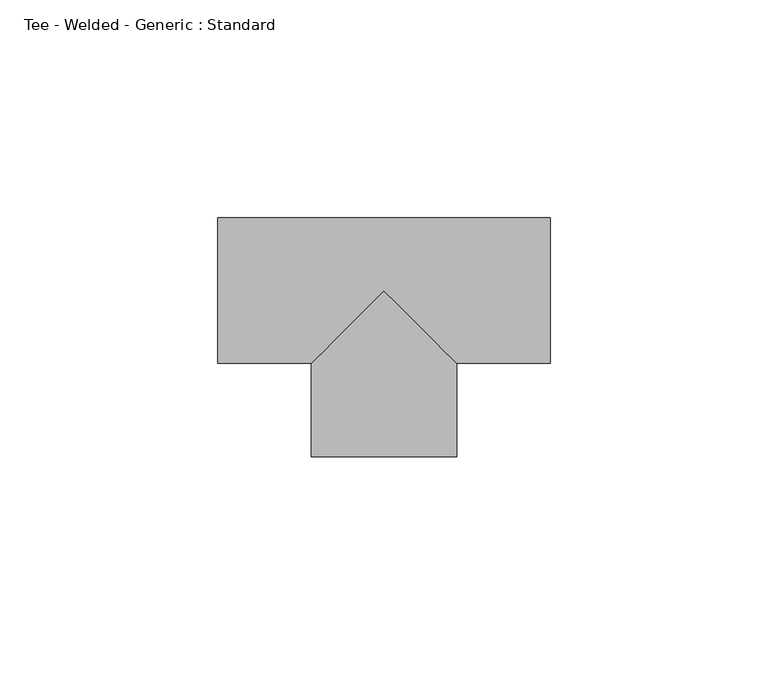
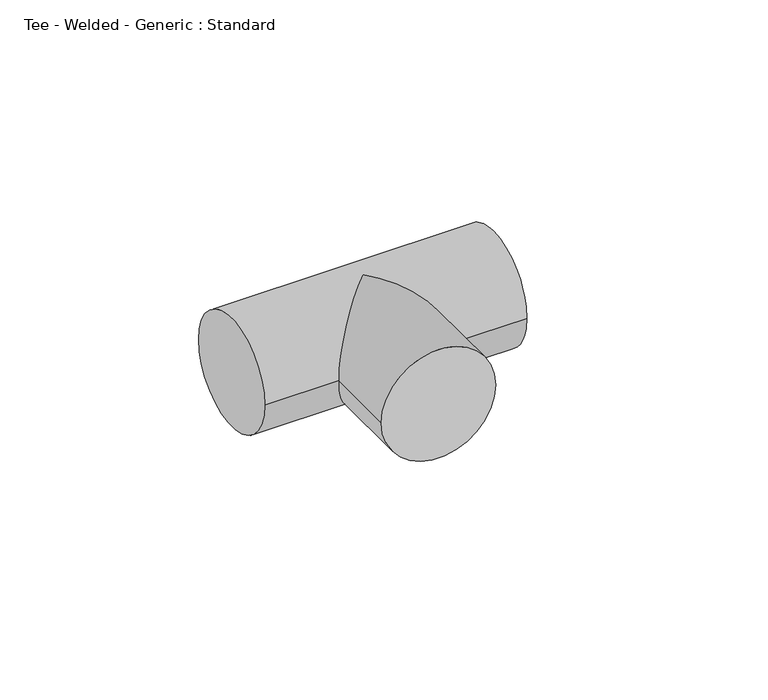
"""IFC4 building model written with IfcOpenShell, lengths in millimetres: pipe fitting geometry, Tee - Welded - Generic : Standard."""

import ifcopenshell
import ifcopenshell.guid

model = None  # the IFC model being written
_history = None  # IfcOwnerHistory: only IFC2X3 demands one
_inside = {}  # id of a spatial element -> (the spatial element, [elements in it])
_under = {}  # id of a project, library or spatial element -> (it, [spatial elements below it])
_declared = {}  # id of a project -> (the project, [libraries it declares])
_typed = {}  # id of a type object -> (the type object, [elements of that type])
_made_of = {}  # id of a material, layer set ... -> (it, [elements and type objects made of it])


def new_model(schema):
    """Start an empty IFC model of exactly this schema.

    Asked for "IFC4X3", IfcOpenShell would pick the latest addendum, in which some entities
    have other attributes; the version numbers below select the first issue.
    IFC2X3 requires an IfcOwnerHistory on every rooted entity: one is made here for all.
    """
    global model, _history
    if schema == "IFC4X3":
        model = ifcopenshell.file(schema_version=(4, 3, 0, 0))
    else:
        model = ifcopenshell.file(schema=schema)
    _inside.clear()
    _under.clear()
    _declared.clear()
    _typed.clear()
    _made_of.clear()
    _history = None
    if model.schema == "IFC2X3":
        org = make("IfcOrganization", Name="unknown")
        user = make(
            "IfcPersonAndOrganization",
            ThePerson=make("IfcPerson", FamilyName="unknown"),
            TheOrganization=org,
        )
        app = make(
            "IfcApplication",
            ApplicationDeveloper=org,
            Version="unknown",
            ApplicationFullName="unknown",
            ApplicationIdentifier="unknown",
        )
        _history = make(
            "IfcOwnerHistory",
            OwningUser=user,
            OwningApplication=app,
            ChangeAction="ADDED",
            CreationDate=0,
        )
    return model


def make(cls, **values):
    """One entity of the class cls with the attributes given. An attribute that is None is left unset."""
    return model.create_entity(
        cls, **{name: value for name, value in values.items() if value is not None}
    )


def rooted(cls, **values):
    """An entity with a GlobalId (a new one), such as an element, a storey or a relation."""
    return make(cls, GlobalId=ifcopenshell.guid.new(), OwnerHistory=_history, **values)


def si_unit(unit_type, name, prefix=None):
    """IfcSIUnit, for example si_unit("LENGTHUNIT", "METRE", prefix="MILLI")."""
    return make("IfcSIUnit", UnitType=unit_type, Prefix=prefix, Name=name)


def assignment(units):
    """IfcUnitAssignment: the units of a project."""
    return None if units is None else make("IfcUnitAssignment", Units=units)


def point(xyz):
    """IfcCartesianPoint."""
    return None if xyz is None else make("IfcCartesianPoint", Coordinates=xyz)


def direction(xyz):
    """IfcDirection."""
    return None if xyz is None else make("IfcDirection", DirectionRatios=xyz)


def frame(location, z_axis=None, x_axis=None):
    """IfcAxis2Placement3D, a coordinate frame: its origin and axes. An axis left out is left unset."""
    return make(
        "IfcAxis2Placement3D",
        Location=point(location),
        Axis=direction(z_axis),
        RefDirection=direction(x_axis),
    )


def origin():
    """The frame at (0, 0, 0) with its axes left unset."""
    return frame((0.0, 0.0, 0.0))


def place(relative_to, where):
    """IfcLocalPlacement: puts the frame where relative to a parent placement (None: the world)."""
    return make(
        "IfcLocalPlacement", PlacementRelTo=relative_to, RelativePlacement=where
    )


def context(
    kind, dimensions, precision=None, world=None, true_north=None, identifier=None
):
    """IfcGeometricRepresentationContext, for example the 3D "Model" context."""
    return make(
        "IfcGeometricRepresentationContext",
        ContextIdentifier=identifier,
        ContextType=kind,
        CoordinateSpaceDimension=dimensions,
        Precision=precision,
        WorldCoordinateSystem=world,
        TrueNorth=true_north,
    )


def project(units=None, contexts=None):
    """IfcProject with its units and contexts."""
    return rooted(
        "IfcProject",
        Name="project",
        RepresentationContexts=contexts,
        UnitsInContext=assignment(units),
    )


def spatial(cls, under=None, at=None, **own):
    """A site, building, storey or space (cls), placed at a placement, below another one or the project."""
    s = rooted(cls, ObjectPlacement=at, **own)
    if under is not None:
        _under.setdefault(under.id(), (under, []))[1].append(s)
    return s


def circle_curve(where, radius):
    """IfcCircle in the frame where."""
    return make("IfcCircle", Position=where, Radius=radius)


def ellipse_curve(where, semi_axis1, semi_axis2):
    """IfcEllipse in the frame where."""
    return make(
        "IfcEllipse", Position=where, SemiAxis1=semi_axis1, SemiAxis2=semi_axis2
    )


def shape(context_of_items, identifier, shape_type, items):
    """IfcShapeRepresentation: the items that make up one representation, for example the "Body"."""
    return make(
        "IfcShapeRepresentation",
        ContextOfItems=context_of_items,
        RepresentationIdentifier=identifier,
        RepresentationType=shape_type,
        Items=items,
    )


def source(mapping_origin, context_of_items, identifier, shape_type, items):
    """IfcRepresentationMap: a shape defined once, which mapped items show again and again."""
    return make(
        "IfcRepresentationMap",
        MappingOrigin=mapping_origin,
        MappedRepresentation=shape(context_of_items, identifier, shape_type, items),
    )


def transform(
    local_origin,
    x_axis=None,
    y_axis=None,
    z_axis=None,
    scale=None,
    scale2=None,
    scale3=None,
    uniform=True,
):
    """IfcCartesianTransformationOperator3D, or its non-uniform kind. x_axis, y_axis, z_axis: its Axis1, 2, 3."""
    if uniform:
        return make(
            "IfcCartesianTransformationOperator3D",
            Axis1=direction(x_axis),
            Axis2=direction(y_axis),
            LocalOrigin=point(local_origin),
            Scale=scale,
            Axis3=direction(z_axis),
        )
    return make(
        "IfcCartesianTransformationOperator3DnonUniform",
        Axis1=direction(x_axis),
        Axis2=direction(y_axis),
        LocalOrigin=point(local_origin),
        Scale=scale,
        Axis3=direction(z_axis),
        Scale2=scale2,
        Scale3=scale3,
    )


def mapped(mapping_source, mapping_target):
    """IfcMappedItem: shows the shape of a source again, moved by a transform."""
    return make(
        "IfcMappedItem", MappingSource=mapping_source, MappingTarget=mapping_target
    )


def made_of(thing, what):
    """Note that an element or type object is made of a material, layer set ...; save() writes the relation."""
    if what is not None:
        _made_of.setdefault(what.id(), (what, []))[1].append(thing)
    return thing


def element(
    cls,
    number,
    at=None,
    inside=None,
    cuts=None,
    type_object=None,
    material=None,
    context=None,
    identifier="Body",
    shape_type=None,
    held_by="IfcProductDefinitionShape",
    body=None,
    shapes=None,
    **own,
):
    """One element of the class cls, such as IfcWall. Its Tag is "e" and its number.

    at: its placement. inside: the storey or other place that contains it. cuts: it is an
    opening in that element (IfcRelVoidsElement). A single representation is given by context,
    identifier, shape_type and body (its items); several are given by shapes. held_by: the class
    of the entity that holds the representations. save() writes the other relations.
    """
    e = rooted(cls, Tag="e%d" % number, ObjectPlacement=at, **own)
    if body is not None:
        shapes = [shape(context, identifier, shape_type, body)]
    if shapes is not None:
        e.Representation = make(held_by, Representations=shapes)
    if inside is not None:
        _inside.setdefault(inside.id(), (inside, []))[1].append(e)
    if cuts is not None:
        rooted(
            "IfcRelVoidsElement", RelatingBuildingElement=cuts, RelatedOpeningElement=e
        )
    if type_object is not None:
        _typed.setdefault(type_object.id(), (type_object, []))[1].append(e)
    return made_of(e, material)


def aggregate(whole, parts):
    """IfcRelAggregates: a whole, such as a stair, and the parts it consists of."""
    return rooted("IfcRelAggregates", RelatingObject=whole, RelatedObjects=parts)


def save(model, path):
    """Write the relations noted so far, then the file.

    IfcRelAggregates (storeys below a building ...), IfcRelContainedInSpatialStructure (elements
    in a storey), IfcRelDefinesByType, IfcRelAssociatesMaterial and IfcRelDeclares: one each for
    every whole, place, type object, material and project.
    """
    for whole, parts in _under.values():
        aggregate(whole, parts)
    for where, things in _inside.values():
        rooted(
            "IfcRelContainedInSpatialStructure",
            RelatedElements=things,
            RelatingStructure=where,
        )
    for kind, things in _typed.values():
        rooted("IfcRelDefinesByType", RelatedObjects=things, RelatingType=kind)
    for what, things in _made_of.values():
        rooted("IfcRelAssociatesMaterial", RelatedObjects=things, RelatingMaterial=what)
    for by, libraries in _declared.values():
        rooted("IfcRelDeclares", RelatingContext=by, RelatedDefinitions=libraries)
    model.write(path)


def plane_surface(at):
    """IfcPlane: the flat surface through the origin of the frame at, square to its z axis."""
    return make("IfcPlane", Position=at)


def cylinder_surface(at, radius):
    """IfcCylindricalSurface: all points at the distance radius from the z axis of the frame at."""
    return make("IfcCylindricalSurface", Position=at, Radius=radius)


def advanced_brep(points, edges, surfaces, faces):
    """IfcAdvancedBrep: a solid bounded by faces that lie on surfaces and meet in shared edges.

    An edge is (start, end): straight between two places in points (the first is 0);
    or (start, end, curve); or (start, end, curve, False) where it runs against its curve.
    A face is (place in surfaces, loops), or (place, loops, False) where it looks against
    its surface's normal. A loop lists edges by number (the first is 1), with a minus sign
    where the edge is run from its end to its start. The first loop is the outer one.
    """
    corners = [point(p) for p in points]
    vertices = [make("IfcVertexPoint", VertexGeometry=c) for c in corners]
    made = []
    for start, end, *more in edges:
        made.append(
            make(
                "IfcEdgeCurve",
                EdgeStart=vertices[start],
                EdgeEnd=vertices[end],
                EdgeGeometry=more[0] if more else make("IfcPolyline", Points=[corners[start], corners[end]]),
                SameSense=more[1] if len(more) > 1 else True,
            )
        )
    hull = []
    for where, loops, *sense in faces:
        bounds = []
        for j, loop in enumerate(loops):
            ring = [make("IfcOrientedEdge", EdgeElement=made[abs(k) - 1], Orientation=k > 0) for k in loop]
            bounds.append(
                make(
                    "IfcFaceOuterBound" if j == 0 else "IfcFaceBound",
                    Bound=make("IfcEdgeLoop", EdgeList=ring),
                    Orientation=True,
                )
            )
        hull.append(make("IfcAdvancedFace", Bounds=bounds, FaceSurface=surfaces[where], SameSense=sense[0] if sense else True))
    return make("IfcAdvancedBrep", Outer=make("IfcClosedShell", CfsFaces=hull))


def tee_welded_generic_standard_63db7fa5(model_context):
    return source(origin(), model_context, "Body", "AdvancedBrep", [
        advanced_brep(
        [(-38.1, -16.66875, 0.0), (-38.1, 16.66875, 0.0), (38.1, -16.66875, 0.0), (38.1, 16.66875, 0.0), (-16.6608739, -16.66875, 0.0), (0.0, 0.0, 16.66875), (16.6766298, -16.66875, 0.0), (0.0, 0.0, -16.66875), (-16.6507413, -38.1078737, 0.0), (16.6867549, -38.0921178, 0.0)],
        [
            (0, 1, circle_curve(frame((-38.1, 0.0, 0.0), z_axis=(-1.0, 0.0, 0.0), x_axis=(0.0, 1.0, 0.0)), 16.66875)),
            (1, 0, circle_curve(frame((-38.1, 0.0, 0.0), z_axis=(-1.0, 0.0, 0.0), x_axis=(0.0, 1.0, 0.0)), 16.66875)),
            (2, 3, circle_curve(frame((38.1, 0.0, 0.0), z_axis=(1.0, 0.0, 0.0), x_axis=(0.0, 1.0, 0.0)), 16.66875)),
            (3, 2, circle_curve(frame((38.1, 0.0, 0.0), z_axis=(1.0, 0.0, 0.0), x_axis=(0.0, 1.0, 0.0)), 16.66875)),
            (0, 4),
            (4, 5, ellipse_curve(frame((0.0, 0.0, 0.0), z_axis=(-0.7072738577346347, 0.7069396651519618, 0.0), x_axis=(-0.7069396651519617, -0.7072738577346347, 0.0)), 23.5676037, 16.66875)),
            (5, 6, ellipse_curve(frame((0.0, 0.0, 0.0), z_axis=(0.7069396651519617, 0.7072738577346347, 0.0), x_axis=(-0.7072738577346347, 0.7069396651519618, 0.0)), 23.5787449, 16.66875)),
            (6, 2),
            (3, 1),
            (6, 7, ellipse_curve(frame((0.0, 0.0, 0.0), z_axis=(0.7069396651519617, 0.7072738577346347, 0.0), x_axis=(-0.7072738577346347, 0.7069396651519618, 0.0)), 23.5787449, 16.66875)),
            (7, 4, ellipse_curve(frame((0.0, 0.0, 0.0), z_axis=(-0.7072738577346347, 0.7069396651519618, 0.0), x_axis=(-0.7069396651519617, -0.7072738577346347, 0.0)), 23.5676037, 16.66875)),
            (8, 9, circle_curve(frame((0.0180068, -38.0999957, 0.0), z_axis=(0.00047261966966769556, -0.9999998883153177, 0.0), x_axis=(0.9999998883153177, 0.00047261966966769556, 0.0)), 16.66875)),
            (9, 8, circle_curve(frame((0.0180068, -38.0999957, 0.0), z_axis=(0.00047261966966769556, -0.9999998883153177, 0.0), x_axis=(0.9999998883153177, 0.00047261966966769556, 0.0)), 16.66875)),
            (9, 6),
            (4, 8),
        ],
        [
            plane_surface(frame((-38.1, 0.0, 0.0), z_axis=(-1.0, 0.0, 0.0), x_axis=(0.0, 0.0, 1.0))),
            plane_surface(frame((38.1, 0.0, 0.0), z_axis=(1.0, 0.0, 0.0), x_axis=(0.0, 0.0, 1.0))),
            cylinder_surface(frame((-38.1, 0.0, 0.0), z_axis=(-1.0, 0.0, 0.0), x_axis=(0.0, 1.0, 0.0)), 16.66875),
            plane_surface(frame((0.0180068, -38.0999957, 0.0), z_axis=(0.00047261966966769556, -0.9999998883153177, 0.0), x_axis=(0.0, 0.0, 1.0))),
            cylinder_surface(frame((0.0, 0.0, 0.0), z_axis=(-0.00047261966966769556, 0.9999998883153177, 0.0), x_axis=(0.9999998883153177, 0.00047261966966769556, 0.0)), 16.66875),
        ],
        [
            (0, [[1, 2]]),
            (1, [[3, 4]]),
            (2, [[-1, 5, 6, 7, 8, -4, 9]]),
            (2, [[-2, -9, -3, -8, 10, 11, -5]]),
            (3, [[12, 13]]),
            (4, [[-13, 14, -7, -6, 15]]),
            (4, [[-12, -15, -11, -10, -14]]),
        ],
    ),
    ])


if __name__ == "__main__":
    model = new_model("IFC4")
    model_context = context("Model", 3, world=origin())
    ifc_project = project(units=[si_unit("LENGTHUNIT", "METRE", prefix="MILLI")], contexts=[model_context])
    site = spatial("IfcSite", under=ifc_project)
    building = spatial("IfcBuilding", under=site)
    placement = place(None, origin())
    tee_welded_generic_standard_shape = tee_welded_generic_standard_63db7fa5(model_context)
    element("IfcPipeFitting", 1, ObjectType="Tee - Welded - Generic : Standard", at=placement, inside=building, context=model_context, shape_type="MappedRepresentation", body=[
        mapped(tee_welded_generic_standard_shape, transform((0.0, 0.0, 0.0), x_axis=(1.0, 0.0, 0.0), y_axis=(0.0, 1.0, 0.0), z_axis=(0.0, 0.0, 1.0))),
    ])
    save(model, "model.ifc")
